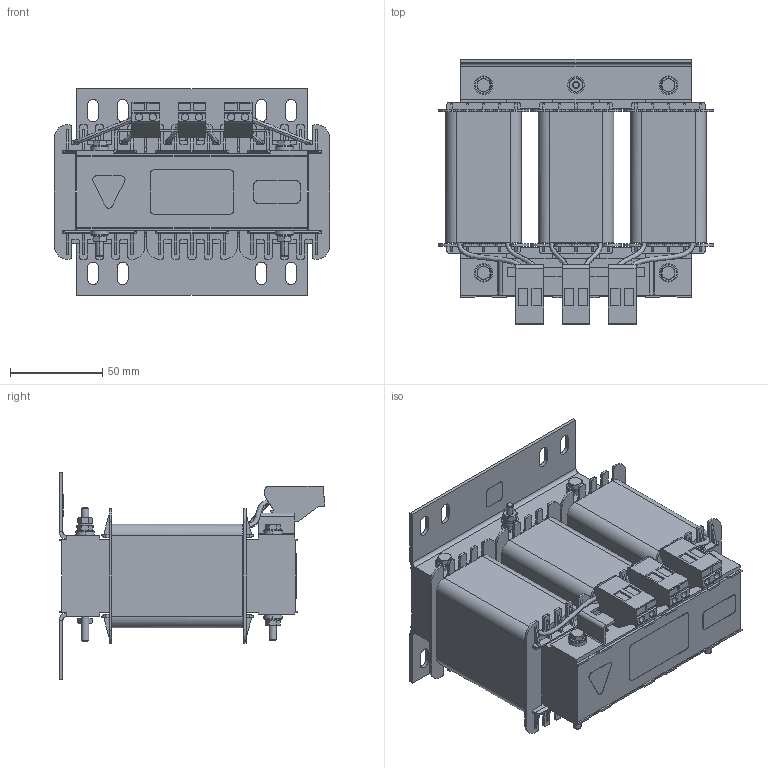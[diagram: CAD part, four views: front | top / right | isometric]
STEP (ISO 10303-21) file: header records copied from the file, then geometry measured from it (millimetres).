
FILE_DESCRIPTION((''),'2;1');
FILE_NAME('B86305-L21-R___C62330-S10-A4-02','2021-10-13T',('ED7263'),(''),'CREO PARAMETRIC BY PTC INC, 2018220','CREO PARAMETRIC BY PTC INC, 2018220','');
FILE_SCHEMA(('AUTOMOTIVE_DESIGN { 1 0 10303 214 1 1 1 1 }'));
Length unit declared in the file: millimetre
Products named in the file (1): B86305-L21-R___C62330-S10-A4-02
Bounding box: 149 x 143.79 x 112 mm (x, y, z)
Volume: 804140.4 mm3; surface area: 278052.4 mm2
Topology: 1 solids, 1 shells, 1694 faces, 4639 edges, 2965 vertices
Faces by surface type: plane 1117, cylinder 477, cone 88, bspline 12
Entity records: 56028 total; most frequent: CARTESIAN_POINT 12514, ORIENTED_EDGE 9266, DIRECTION 8855, EDGE_CURVE 4633, VECTOR 3251, LINE 3251, VERTEX_POINT 2962, AXIS2_PLACEMENT_3D 2802
